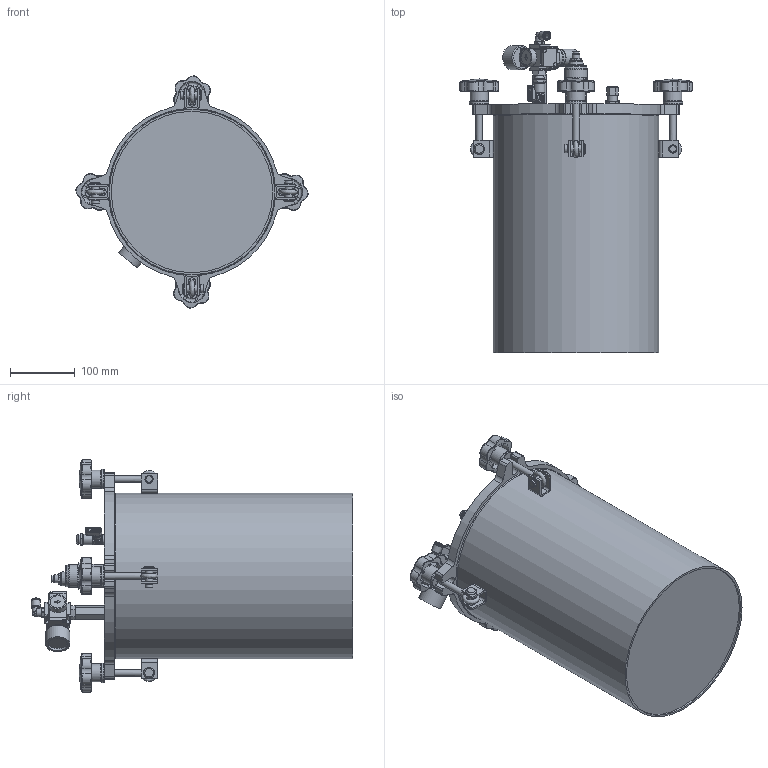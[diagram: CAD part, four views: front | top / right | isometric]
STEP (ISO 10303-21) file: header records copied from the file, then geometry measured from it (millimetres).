
FILE_DESCRIPTION (( 'STEP AP214' ), '1' );
FILE_NAME ('PT16LLS-CAP.STEP', '2024-10-11T14:37:46', ( '' ), ( '' ), 'SwSTEP 2.0', 'SolidWorks 2024', '' );
FILE_SCHEMA (( 'AUTOMOTIVE_DESIGN' ));
Length unit declared in the file: millimetre
Products named in the file (1): PT16LLS-CAP
Bounding box: 359.7 x 498 x 359.7 mm (x, y, z)
Volume: 2656615.1 mm3; surface area: 1029228.4 mm2
Topology: 43 solids, 54 shells, 1437 faces, 3586 edges, 2337 vertices
Faces by surface type: plane 701, cylinder 340, bspline 222, cone 114, torus 56, sphere 4
Full cylindrical faces by diameter (mm): 1.9 x1, 2 x1, 3 x1, 5 x4, 5.5 x1, 5.6 x4, 6 x4, 7 x1, 7.4 x1, 7.5 x1, 8 x3, 8.15 x2, 8.2 x1, 8.376 x4, 8.566 x2, 9 x4, 9.4 x1, 10 x6, 10.2 x1, 10.4 x4, 11 x2, 11.445 x2, 11.6 x1, 11.7 x4, 11.8 x1, 12 x11, 12.5 x1, 12.7 x8, 13 x4, 13.5 x1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
Entity records: 73334 total; most frequent: CARTESIAN_POINT 41814, ORIENTED_EDGE 6490, DIRECTION 5675, EDGE_CURVE 3245, VERTEX_POINT 2233, AXIS2_PLACEMENT_3D 2022, EDGE_LOOP 1810, VECTOR 1631
